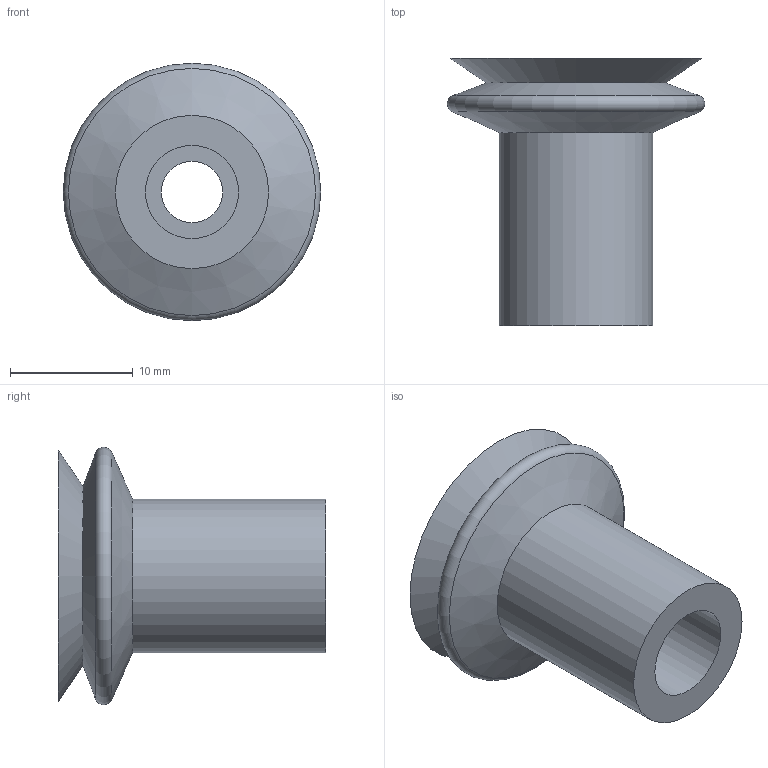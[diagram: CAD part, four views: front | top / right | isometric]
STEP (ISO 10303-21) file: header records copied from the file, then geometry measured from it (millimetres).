
FILE_DESCRIPTION (( 'STEP AP214' ), '1' );
FILE_NAME ('15B.021.003.02.STEP', '2026-03-12T17:28:11', ( '' ), ( '' ), 'SwSTEP 2.0', 'SolidWorks 2025', '' );
FILE_SCHEMA (( 'AUTOMOTIVE_DESIGN' ));
Length unit declared in the file: millimetre
Products named in the file (1): 15B.021.003.02
Bounding box: 21 x 21.8 x 21 mm (x, y, z)
Volume: 1879 mm3; surface area: 2422 mm2
Topology: 1 solids, 1 shells, 17 faces, 30 edges, 17 vertices
Faces by surface type: cone 6, cylinder 5, plane 4, torus 2
Full cylindrical faces by diameter (mm): 5 x1, 7.6 x1, 10.6 x1, 12.5 x1, 17.6 x1
Entity records: 371 total; most frequent: DIRECTION 70, CARTESIAN_POINT 52, AXIS2_PLACEMENT_3D 35, EDGE_LOOP 34, ORIENTED_EDGE 34, FACE_OUTER_BOUND 24, ADVANCED_FACE 17, VERTEX_POINT 17
